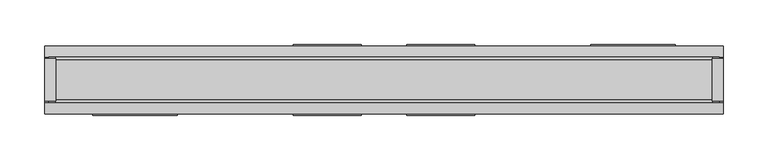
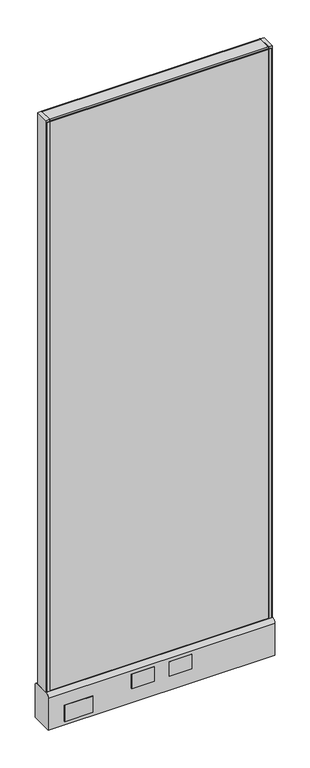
"""IFC4 building model written with IfcOpenShell, lengths in millimetres: furniture geometry."""

from ifc_helpers import new_model, si_unit, point, frame, frame_2d, origin, place, context, project, spatial, polyline, circle_curve, trimmed, segment, composite_curve, outline, extrude, source, transform, mapped, element, save
from ifc_brep_helpers import plane_surface, cylinder_surface, advanced_brep


def furniture_314199cd(model_context):
    return source(origin(), model_context, "Body", "SolidModel", [
        extrude(outline(polyline([(-101.6, 39.6875), (-25.4, 39.6875), (-25.4, 38.1), (-101.6, 38.1), (-101.6, 39.6875)])), frame((0.0, 0.0, 60.325), z_axis=(0.0, 0.0, 1.0), x_axis=(1.0, 0.0, 0.0)), (0.0, 0.0, 1.0), 50.8),
        extrude(outline(polyline([(25.4, 39.6875), (101.6, 39.6875), (101.6, 38.1), (25.4, 38.1), (25.4, 39.6875)])), frame((0.0, 0.0, 60.325), z_axis=(0.0, 0.0, 1.0), x_axis=(1.0, 0.0, 0.0)), (0.0, 0.0, 1.0), 50.8),
        extrude(outline(polyline([(-101.6, -38.1), (-25.4, -38.1), (-25.4, -39.6875), (-101.6, -39.6875), (-101.6, -38.1)])), frame((0.0, 0.0, 60.325), z_axis=(0.0, 0.0, 1.0), x_axis=(1.0, 0.0, 0.0)), (0.0, 0.0, 1.0), 50.8),
        extrude(outline(polyline([(25.4, -38.1), (101.6, -38.1), (101.6, -39.6875), (25.4, -39.6875), (25.4, -38.1)])), frame((0.0, 0.0, 60.325), z_axis=(0.0, 0.0, 1.0), x_axis=(1.0, 0.0, 0.0)), (0.0, 0.0, 1.0), 50.8),
        extrude(outline(polyline([(327.025, 38.1), (231.775, 38.1), (231.775, 39.6875), (327.025, 39.6875), (327.025, 38.1)])), frame((0.0, 0.0, 22.225), z_axis=(0.0, 0.0, 1.0), x_axis=(1.0, 0.0, 0.0)), (0.0, 0.0, 1.0), 57.15),
        extrude(outline(polyline([(-231.775, -39.6875), (-327.025, -39.6875), (-327.025, -38.1), (-231.775, -38.1), (-231.775, -39.6875)])), frame((0.0, 0.0, 22.225), z_axis=(0.0, 0.0, 1.0), x_axis=(1.0, 0.0, 0.0)), (0.0, 0.0, 1.0), 57.15),
        advanced_brep(
        [(323.85, 0.0, 0.0), (349.25, 0.0, 0.0), (336.55, 0.0, 0.0), (323.85, 0.0, 4.7625), (349.25, 0.0, 4.7625), (330.2, 0.0, 4.7625), (342.9, 0.0, 4.7625), (330.2, 0.0, 111.125), (342.9, 0.0, 111.125), (336.55, 0.0, 111.125)],
        [
            (0, 1, circle_curve(frame((336.55, 0.0, 0.0), z_axis=(0.0, 0.0, -1.0), x_axis=(1.0, 0.0, 0.0)), 12.7)),
            (1, 2),
            (2, 0),
            (1, 0, circle_curve(frame((336.55, 0.0, 0.0), z_axis=(0.0, 0.0, -1.0), x_axis=(1.0, 0.0, 0.0)), 12.7)),
            (3, 4, circle_curve(frame((336.55, 0.0, 4.7625), z_axis=(0.0, 0.0, -1.0), x_axis=(1.0, 0.0, 0.0)), 12.7)),
            (4, 1),
            (0, 3),
            (4, 3, circle_curve(frame((336.55, 0.0, 4.7625), z_axis=(0.0, 0.0, -1.0), x_axis=(1.0, 0.0, 0.0)), 12.7)),
            (5, 6, circle_curve(frame((336.55, 0.0, 4.7625), z_axis=(0.0, 0.0, -1.0), x_axis=(1.0, 0.0, 0.0)), 6.35)),
            (6, 4),
            (3, 5),
            (6, 5, circle_curve(frame((336.55, 0.0, 4.7625), z_axis=(0.0, 0.0, -1.0), x_axis=(1.0, 0.0, 0.0)), 6.35)),
            (7, 8, circle_curve(frame((336.55, 0.0, 111.125), z_axis=(0.0, 0.0, -1.0), x_axis=(1.0, 0.0, 0.0)), 6.35)),
            (8, 6),
            (5, 7),
            (8, 7, circle_curve(frame((336.55, 0.0, 111.125), z_axis=(0.0, 0.0, -1.0), x_axis=(1.0, 0.0, 0.0)), 6.35)),
            (9, 8),
            (7, 9),
        ],
        [
            plane_surface(frame((336.55, 0.0, 0.0), z_axis=(0.0, 0.0, -1.0), x_axis=(1.0, 0.0, 0.0))),
            cylinder_surface(frame((336.55, 0.0, 114.882153), z_axis=(0.0, 0.0, 1.0), x_axis=(1.0, 0.0, 0.0)), 12.7),
            plane_surface(frame((336.55, 0.0, 4.7625), z_axis=(0.0, 0.0, 1.0), x_axis=(1.0, 0.0, 0.0))),
            cylinder_surface(frame((336.55, 0.0, 114.882153), z_axis=(0.0, 0.0, 1.0), x_axis=(1.0, 0.0, 0.0)), 6.35),
            plane_surface(frame((336.55, 0.0, 111.125), z_axis=(0.0, 0.0, 1.0), x_axis=(1.0, 0.0, 0.0))),
        ],
        [
            (0, [[1, 2, 3]]),
            (0, [[4, -3, -2]]),
            (1, [[5, 6, -1, 7]]),
            (1, [[8, -7, -4, -6]]),
            (2, [[9, 10, -5, 11]]),
            (2, [[12, -11, -8, -10]]),
            (3, [[13, 14, -9, 15]]),
            (3, [[16, -15, -12, -14]]),
            (4, [[17, -13, 18]]),
            (4, [[-18, -16, -17]]),
        ],
    ),
        advanced_brep(
        [(-349.25, 0.0, 4.7625), (-323.85, 0.0, 4.7625), (-323.85, 0.0, 0.0), (-349.25, 0.0, 0.0), (-342.9, 0.0, 4.7625), (-330.2, 0.0, 4.7625), (-342.9, 0.0, 111.125), (-330.2, 0.0, 111.125), (-336.55, 0.0, 111.125), (-336.55, 0.0, 0.0)],
        [
            (0, 1, circle_curve(frame((-336.55, 0.0, 4.7625), z_axis=(0.0, 0.0, -1.0), x_axis=(1.0, 0.0, 0.0)), 12.7)),
            (1, 2),
            (2, 3, circle_curve(frame((-336.55, 0.0, 0.0), z_axis=(0.0, 0.0, 1.0), x_axis=(1.0, 0.0, 0.0)), 12.7)),
            (3, 0),
            (1, 0, circle_curve(frame((-336.55, 0.0, 4.7625), z_axis=(0.0, 0.0, -1.0), x_axis=(1.0, 0.0, 0.0)), 12.7)),
            (3, 2, circle_curve(frame((-336.55, 0.0, 0.0), z_axis=(0.0, 0.0, 1.0), x_axis=(1.0, 0.0, 0.0)), 12.7)),
            (4, 5, circle_curve(frame((-336.55, 0.0, 4.7625), z_axis=(0.0, 0.0, -1.0), x_axis=(1.0, 0.0, 0.0)), 6.35)),
            (5, 1),
            (0, 4),
            (5, 4, circle_curve(frame((-336.55, 0.0, 4.7625), z_axis=(0.0, 0.0, -1.0), x_axis=(1.0, 0.0, 0.0)), 6.35)),
            (6, 7, circle_curve(frame((-336.55, 0.0, 111.125), z_axis=(0.0, 0.0, -1.0), x_axis=(1.0, 0.0, 0.0)), 6.35)),
            (7, 5),
            (4, 6),
            (7, 6, circle_curve(frame((-336.55, 0.0, 111.125), z_axis=(0.0, 0.0, -1.0), x_axis=(1.0, 0.0, 0.0)), 6.35)),
            (8, 7),
            (6, 8),
            (2, 9),
            (9, 3),
        ],
        [
            cylinder_surface(frame((-336.55, 0.0, 123.825), z_axis=(0.0, 0.0, 1.0), x_axis=(1.0, 0.0, 0.0)), 12.7),
            plane_surface(frame((-336.55, 0.0, 4.7625), z_axis=(0.0, 0.0, 1.0), x_axis=(1.0, 0.0, 0.0))),
            cylinder_surface(frame((-336.55, 0.0, 123.825), z_axis=(0.0, 0.0, 1.0), x_axis=(1.0, 0.0, 0.0)), 6.35),
            plane_surface(frame((-336.55, 0.0, 111.125), z_axis=(0.0, 0.0, 1.0), x_axis=(1.0, 0.0, 0.0))),
            plane_surface(frame((-336.55, 0.0, 0.0), z_axis=(0.0, 0.0, -1.0), x_axis=(1.0, 0.0, 0.0))),
        ],
        [
            (0, [[1, 2, 3, 4]]),
            (0, [[5, -4, 6, -2]]),
            (1, [[7, 8, -1, 9]]),
            (1, [[10, -9, -5, -8]]),
            (2, [[11, 12, -7, 13]]),
            (2, [[14, -13, -10, -12]]),
            (3, [[15, -11, 16]]),
            (3, [[-16, -14, -15]]),
            (4, [[-3, 17, 18]]),
            (4, [[-6, -18, -17]]),
        ],
    ),
        extrude(outline(polyline([(-381.0, 23.8125), (-368.3, 23.8125), (-368.3, -23.8125), (-381.0, -23.8125), (-381.0, 23.8125)])), frame((0.0, 0.0, 136.525), z_axis=(0.0, 0.0, 1.0), x_axis=(1.0, 0.0, 0.0)), (0.0, 0.0, 1.0), 2032.0),
        extrude(outline(polyline([(368.3, -23.8125), (368.3, 23.8125), (381.0, 23.8125), (381.0, -23.8125), (368.3, -23.8125)])), frame((0.0, 0.0, 136.525), z_axis=(0.0, 0.0, 1.0), x_axis=(1.0, 0.0, 0.0)), (0.0, 0.0, 1.0), 2032.0),
        extrude(outline(polyline([(-368.3, 25.4), (-368.3, 23.8125), (-376.2375, 23.8125), (-376.2375, 25.4), (-368.3, 25.4)])), frame((0.0, 0.0, 136.525), z_axis=(0.0, 0.0, 1.0), x_axis=(1.0, 0.0, 0.0)), (0.0, 0.0, 1.0), 2025.65),
        extrude(outline(polyline([(-368.3, -25.4), (-376.2375, -25.4), (-376.2375, -23.8125), (-368.3, -23.8125), (-368.3, -25.4)])), frame((0.0, 0.0, 136.525), z_axis=(0.0, 0.0, 1.0), x_axis=(1.0, 0.0, 0.0)), (0.0, 0.0, 1.0), 2025.65),
        extrude(outline(polyline([(376.2375, 23.8125), (368.3, 23.8125), (368.3, 25.4), (376.2375, 25.4), (376.2375, 23.8125)])), frame((0.0, 0.0, 136.525), z_axis=(0.0, 0.0, 1.0), x_axis=(1.0, 0.0, 0.0)), (0.0, 0.0, 1.0), 2025.65),
        extrude(outline(polyline([(368.3, -25.4), (368.3, -23.8125), (376.2375, -23.8125), (376.2375, -25.4), (368.3, -25.4)])), frame((0.0, 0.0, 136.525), z_axis=(0.0, 0.0, 1.0), x_axis=(1.0, 0.0, 0.0)), (0.0, 0.0, 1.0), 2025.65),
        extrude(outline(composite_curve([segment(trimmed(circle_curve(frame_2d((22.225, 2165.35)), 3.175), [point((22.225, 2168.525))], [point((25.4, 2165.35))], False, "CARTESIAN"), True, "CONTINUOUS"), segment(polyline([(25.4, 2165.35), (25.4, 2162.175), (-25.4, 2162.175), (-25.4, 2165.35)]), True, "CONTINUOUS"), segment(trimmed(circle_curve(frame_2d((-22.225, 2165.35)), 3.175), [point((-25.4, 2165.35))], [point((-22.225, 2168.525))], False, "CARTESIAN"), True, "CONTINUOUS"), segment(polyline([(-22.225, 2168.525), (22.225, 2168.525)]), True, "CONTINUOUS")], self_intersect=False)), frame((-368.3, 0.0, 0.0), z_axis=(1.0, 0.0, 0.0), x_axis=(0.0, 1.0, 0.0)), (0.0, 0.0, 1.0), 736.6),
        extrude(outline(composite_curve([segment(trimmed(circle_curve(frame_2d((25.4, 123.825)), 12.7), [point((25.4, 136.525))], [point((38.1, 123.825))], False, "CARTESIAN"), True, "CONTINUOUS"), segment(polyline([(38.1, 123.825), (38.1, 9.525), (-38.1, 9.525), (-38.1, 123.825)]), True, "CONTINUOUS"), segment(trimmed(circle_curve(frame_2d((-25.4, 123.825)), 12.7), [point((-38.1, 123.825))], [point((-25.4, 136.525))], False, "CARTESIAN"), True, "CONTINUOUS"), segment(polyline([(-25.4, 136.525), (25.4, 136.525)]), True, "CONTINUOUS")], self_intersect=False)), frame((-381.0, 0.0, 0.0), z_axis=(1.0, 0.0, 0.0), x_axis=(0.0, 1.0, 0.0)), (0.0, 0.0, 1.0), 762.0),
        extrude(outline(polyline([(368.3, 23.8125), (368.3, -23.8125), (-368.3, -23.8125), (-368.3, 23.8125), (368.3, 23.8125)])), frame((0.0, 0.0, 136.525), z_axis=(0.0, 0.0, 1.0), x_axis=(1.0, 0.0, 0.0)), (0.0, 0.0, 1.0), 2025.65),
    ])


if __name__ == "__main__":
    model = new_model("IFC4")
    model_context = context("Model", 3, world=origin())
    ifc_project = project(units=[si_unit("LENGTHUNIT", "METRE", prefix="MILLI")], contexts=[model_context])
    site = spatial("IfcSite", under=ifc_project)
    building = spatial("IfcBuilding", under=site)
    placement = place(None, origin())
    furniture_shape = furniture_314199cd(model_context)
    element("IfcFurniture", 1, ObjectType="HermanMiller_ActionOffice_A1110_Hard-SurfacedPanelStandardBase : 85\"H x 30\"W-G", at=placement, inside=building, context=model_context, shape_type="MappedRepresentation", body=[
        mapped(furniture_shape, transform((0.0, 0.0, 0.0), x_axis=(1.0, 0.0, 0.0), y_axis=(0.0, 1.0, 0.0), z_axis=(0.0, 0.0, 1.0))),
    ])
    save(model, "model.ifc")
